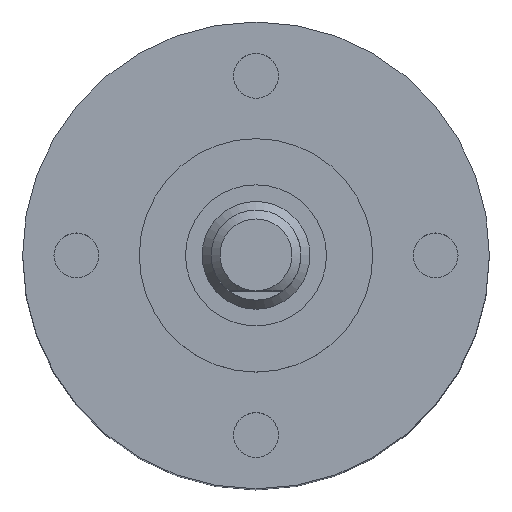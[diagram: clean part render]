
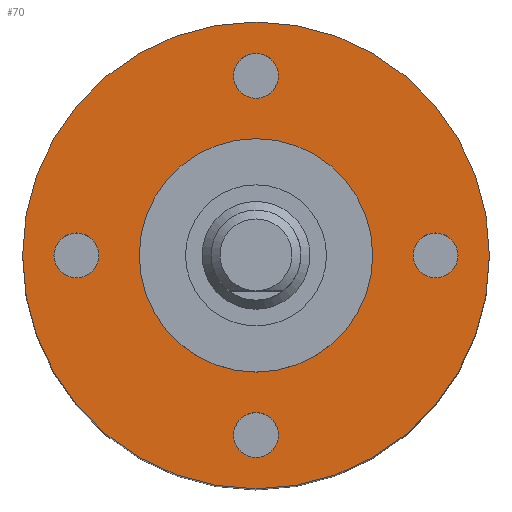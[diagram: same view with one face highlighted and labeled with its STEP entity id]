
A CAD part, top view. The second image highlights one B-rep face of the part: STEP entity #70.
In plain terms, the highlighted planar face has unit normal (0, 0, 1).
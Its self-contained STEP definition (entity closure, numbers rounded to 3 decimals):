
#37=PLANE('',#436);
#70=ADVANCED_FACE('',(#129,#130,#131,#132,#133,#134),#37,.T.);
#129=FACE_BOUND('',#184,.T.);
#130=FACE_BOUND('',#185,.T.);
#131=FACE_BOUND('',#186,.T.);
#132=FACE_BOUND('',#187,.T.);
#133=FACE_BOUND('',#188,.T.);
#134=FACE_BOUND('',#189,.T.);
#184=EDGE_LOOP('',(#253));
#185=EDGE_LOOP('',(#254));
#186=EDGE_LOOP('',(#255));
#187=EDGE_LOOP('',(#256));
#188=EDGE_LOOP('',(#257));
#189=EDGE_LOOP('',(#258));
#253=ORIENTED_EDGE('',*,*,#359,.T.);
#254=ORIENTED_EDGE('',*,*,#360,.T.);
#255=ORIENTED_EDGE('',*,*,#361,.T.);
#256=ORIENTED_EDGE('',*,*,#362,.T.);
#257=ORIENTED_EDGE('',*,*,#356,.T.);
#258=ORIENTED_EDGE('',*,*,#363,.F.);
#320=VERTEX_POINT('',#651);
#323=VERTEX_POINT('',#659);
#324=VERTEX_POINT('',#661);
#325=VERTEX_POINT('',#663);
#326=VERTEX_POINT('',#665);
#327=VERTEX_POINT('',#667);
#356=EDGE_CURVE('',#320,#320,#389,.T.);
#359=EDGE_CURVE('',#323,#323,#392,.T.);
#360=EDGE_CURVE('',#324,#324,#393,.T.);
#361=EDGE_CURVE('',#325,#325,#394,.T.);
#362=EDGE_CURVE('',#326,#326,#395,.T.);
#363=EDGE_CURVE('',#327,#327,#396,.T.);
#389=CIRCLE('',#426,6.5);
#392=CIRCLE('',#431,1.25);
#393=CIRCLE('',#432,1.25);
#394=CIRCLE('',#433,1.25);
#395=CIRCLE('',#434,1.25);
#396=CIRCLE('',#435,13.);
#426=AXIS2_PLACEMENT_3D('',#650,#508,#509);
#431=AXIS2_PLACEMENT_3D('',#658,#518,#519);
#432=AXIS2_PLACEMENT_3D('',#660,#520,#521);
#433=AXIS2_PLACEMENT_3D('',#662,#522,#523);
#434=AXIS2_PLACEMENT_3D('',#664,#524,#525);
#435=AXIS2_PLACEMENT_3D('',#666,#526,#527);
#436=AXIS2_PLACEMENT_3D('',#668,#528,#529);
#508=DIRECTION('',(0.,0.,-1.));
#509=DIRECTION('',(1.,0.,0.));
#518=DIRECTION('',(0.,0.,-1.));
#519=DIRECTION('',(0.,1.,0.));
#520=DIRECTION('',(0.,0.,-1.));
#521=DIRECTION('',(1.,0.,0.));
#522=DIRECTION('',(0.,0.,-1.));
#523=DIRECTION('',(0.,-1.,0.));
#524=DIRECTION('',(0.,0.,-1.));
#525=DIRECTION('',(-1.,0.,0.));
#526=DIRECTION('',(0.,0.,-1.));
#527=DIRECTION('',(-1.,0.,0.));
#528=DIRECTION('',(0.,0.,1.));
#529=DIRECTION('',(1.,0.,0.));
#650=CARTESIAN_POINT('',(0.,0.,0.));
#651=CARTESIAN_POINT('',(6.5,0.,0.));
#658=CARTESIAN_POINT('',(10.,0.,0.));
#659=CARTESIAN_POINT('',(10.,1.25,0.));
#660=CARTESIAN_POINT('',(0.,-10.,0.));
#661=CARTESIAN_POINT('',(1.25,-10.,0.));
#662=CARTESIAN_POINT('',(-10.,0.,0.));
#663=CARTESIAN_POINT('',(-10.,-1.25,0.));
#664=CARTESIAN_POINT('',(0.,10.,0.));
#665=CARTESIAN_POINT('',(-1.25,10.,0.));
#666=CARTESIAN_POINT('',(0.,0.,0.));
#667=CARTESIAN_POINT('',(-13.,0.,0.));
#668=CARTESIAN_POINT('',(0.,0.,0.));
